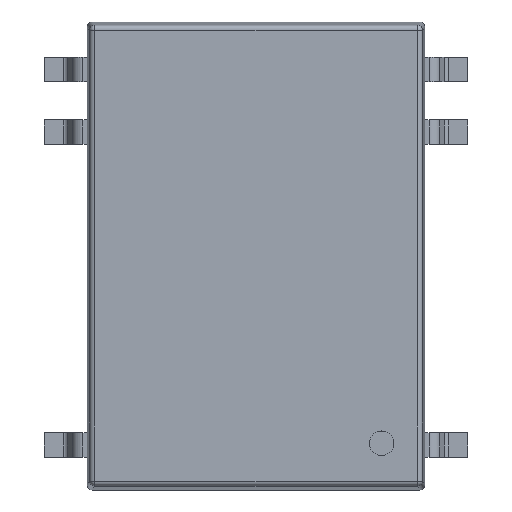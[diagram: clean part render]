
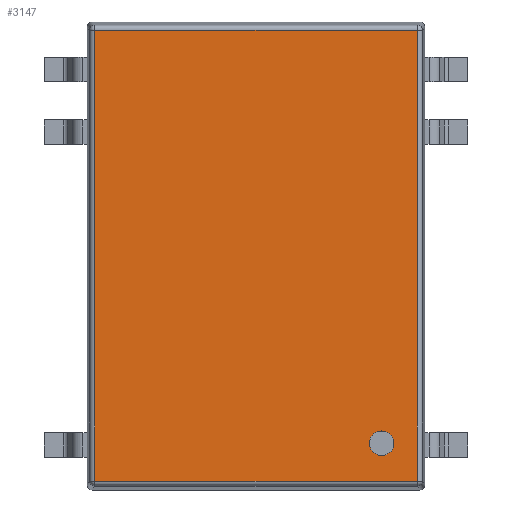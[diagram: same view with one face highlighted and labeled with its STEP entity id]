
A CAD part, top view. The second image highlights one B-rep face of the part: STEP entity #3147.
In plain terms, the highlighted planar face has unit normal (0, 0, 1).
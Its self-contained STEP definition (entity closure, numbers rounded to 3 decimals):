
#436=LINE('',#5117,#752);
#438=LINE('',#5120,#754);
#440=LINE('',#5123,#756);
#444=LINE('',#5132,#760);
#752=VECTOR('',#4210,18.31);
#754=VECTOR('',#4214,13.107);
#756=VECTOR('',#4218,13.107);
#760=VECTOR('',#4228,18.31);
#888=PLANE('',#3422);
#916=FACE_BOUND('',#1266,.T.);
#1071=FACE_OUTER_BOUND('',#1265,.T.);
#1265=EDGE_LOOP('',(#2859,#2860,#2861,#2862));
#1266=EDGE_LOOP('',(#2863));
#1373=CIRCLE('',#3423,0.5);
#1619=VERTEX_POINT('',#5082);
#1624=VERTEX_POINT('',#5092);
#1626=VERTEX_POINT('',#5097);
#1628=VERTEX_POINT('',#5103);
#1647=VERTEX_POINT('',#5169);
#2029=EDGE_CURVE('',#1626,#1628,#436,.T.);
#2031=EDGE_CURVE('',#1628,#1624,#438,.T.);
#2033=EDGE_CURVE('',#1619,#1626,#440,.T.);
#2038=EDGE_CURVE('',#1624,#1619,#444,.T.);
#2057=EDGE_CURVE('',#1647,#1647,#1373,.T.);
#2859=ORIENTED_EDGE('',*,*,#2029,.F.);
#2860=ORIENTED_EDGE('',*,*,#2033,.F.);
#2861=ORIENTED_EDGE('',*,*,#2038,.F.);
#2862=ORIENTED_EDGE('',*,*,#2031,.F.);
#2863=ORIENTED_EDGE('',*,*,#2057,.T.);
#3147=ADVANCED_FACE('',(#1071,#916),#888,.T.);
#3422=AXIS2_PLACEMENT_3D('',#5168,#4263,#4264);
#3423=AXIS2_PLACEMENT_3D('',#5170,#4265,#4266);
#4210=DIRECTION('',(0.,-1.,0.));
#4214=DIRECTION('',(-1.,0.,0.));
#4218=DIRECTION('',(1.,0.,0.));
#4228=DIRECTION('',(0.,1.,0.));
#4263=DIRECTION('center_axis',(0.,0.,1.));
#4264=DIRECTION('ref_axis',(1.,0.,0.));
#4265=DIRECTION('center_axis',(0.,0.,-1.));
#4266=DIRECTION('ref_axis',(-1.,0.,0.));
#5082=CARTESIAN_POINT('',(-6.554,9.155,8.8));
#5092=CARTESIAN_POINT('',(-6.554,-9.155,8.8));
#5097=CARTESIAN_POINT('',(6.554,9.155,8.8));
#5103=CARTESIAN_POINT('',(6.554,-9.155,8.8));
#5117=CARTESIAN_POINT('',(6.554,4.676,8.8));
#5120=CARTESIAN_POINT('',(3.376,-9.155,8.8));
#5123=CARTESIAN_POINT('',(-3.376,9.155,8.8));
#5132=CARTESIAN_POINT('',(-6.554,-4.676,8.8));
#5168=CARTESIAN_POINT('Origin',(0.,0.,8.8));
#5169=CARTESIAN_POINT('',(5.6,-7.62,8.8));
#5170=CARTESIAN_POINT('Origin',(5.1,-7.62,8.8));
